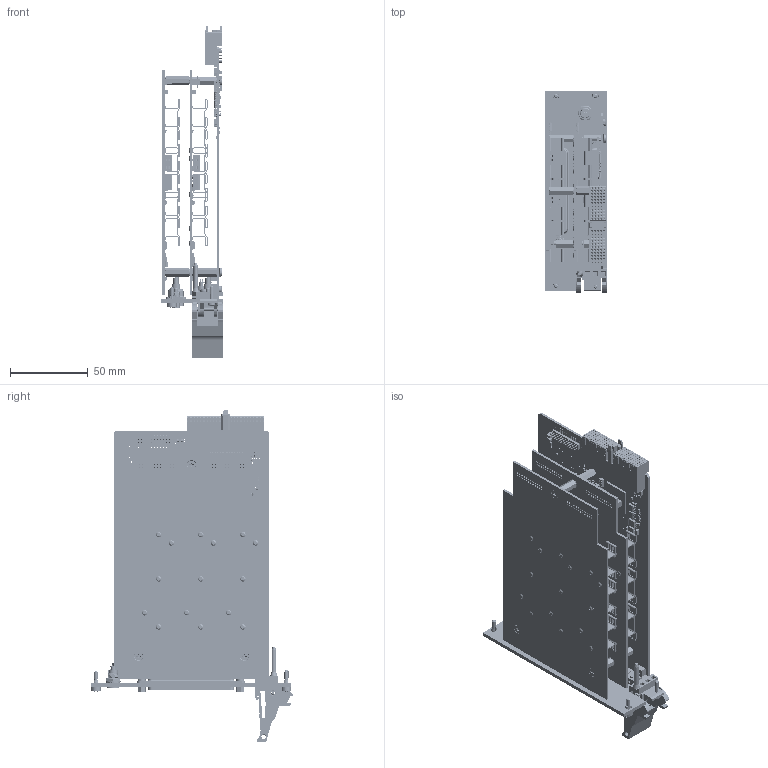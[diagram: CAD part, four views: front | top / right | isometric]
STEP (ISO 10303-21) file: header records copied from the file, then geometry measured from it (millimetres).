
FILE_DESCRIPTION (( 'STEP AP214' ), '1' );
FILE_NAME ('40-184A-001-HI PXI Solid-State Switch Module 6xSPST 25 A 100 V.STEP', '2025-07-24T13:17:37', ( '' ), ( '' ), 'SwSTEP 2.0', 'SolidWorks 2023', '' );
FILE_SCHEMA (( 'AUTOMOTIVE_DESIGN' ));
Length unit declared in the file: millimetre
Products named in the file (99): C-CP-239  Power Line Filter; C-FX-042 Screw M2.5x6 CSK Pozi_M 2.5x06 - C-FX-042; C-PC-1430 Interlock Connector Breakout Board; C-IC-598 64Mbit Flash Memory 8-Pin SOIC; C-IC-124 16-Bit Constant Current Sink Driver; C-IC-310 SOT353 SD; C-RS-636 RES 10K (0603) 1-16W 1% 100ppm; C-CN-355 Compact pci connector 3_Render; C-MS-803 BEAD 120R 0603 2A 0R05 25%; C-RS-254 Res  0603; C-RS-147 Res 100R 0603 1-16W 1% 100PPM; C-CN-476 D PLUG CONTACT 40A; C-CP-139 CAP 4.7UF 1206 16V X7R 10%; C-SC-157 DIODE SCHOTTKY SIGNAL; C-CN-1071; C-CN-073 WASHER plain; C-SC-140 100V 120A Power Transistor; A-PC-878-J-# 25A 100V Solid State 6 x SPST; A-PC-1253-HI PXI VERSATILE MOTHER BOARD; C-FX-461 Hex Standoff, F-F, M3x16mm, Brass_16mm Hexagonal spacer; C-PC-1253 VERSATILE MOTHER BOARD; Z-FX-2001 FP Fixing - Bush + Screw; C-RS-521 Res 120R (0603) 1-16W 1% 100pp; C-RS-1487 RES 100k 0.1W 25PPM 0603; A-FP-1197-L1 PXI 2x 8-Way D-Type + Interlock Front Panel Assy; C-IC-458 LDO VOLTAGE REGULATOR 1.2V SOT; C-CP-124 CAP 10nF CERAMIC SMT 0402; C-CN-073-SPRING WASHER; C-CN-992-TOPPINS 12 WAY HEADER; C-RS-148 Res 1K 0603 1-16W 1% 100PPM; C-RS-614 Resistor 63K4 (0603) SMT; 40-184A-001-HI PXI Solid-State Switch Module 6xSPST  25 A 100 V; C-FP-1197 PXI 2x 8-Way D-Type + Interlock Front Panel; C-SC-146 Dual Transistor SOT-14; C-FX-165 Handle Body; C-FX-165 CPCI Ejector Handle; C-PC-878 Fault Insertion Daughter PCB; C-SC-137 TVS DIODE ARRAY; C-CN-992 12 WAY HEADER; C-IC-185 Bus Transceivers Octal 3-STATE Trans IC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
Assembly tree (294 placements, depth 6):
  40-184A-001-HI PXI Solid-State Switch Module 6xSPST  25 A 100 V
    A-PC-1253-HI PXI VERSATILE MOTHER BOARD
      A-PC-1253-HI-# PXI VERSATILE MOTHER BOARD
        C-PC-1253 VERSATILE MOTHER BOARD
        C-RS-756 RES 0R 0603  200PPM  x17
        C-IC-489 F-RAM Semiconductor Serial-I2C FRAM Memory 512kbit 2-3.6 V 8-Pin SOIC
        C-CP-034  x20
        C-SC-137 TVS DIODE ARRAY
        C-IC-158 Buffer 3-State SOT-23 5-Pin
        C-IC-548 1-Bit Flip-Flop 8-Pin SM8
        C-IC-310 SOT353 SD
        C-RS-152 Res 10K 0603 1-16W 1% 300PPM  x4
        C-RS-1487 RES 100k 0.1W 25PPM 0603
        C-RS-147 Res 100R 0603 1-16W 1% 100PPM  x2
        C-CN-1609 1x4-Way PICBLADE ST M Header
        C-CP-033 Capacitor 10nF SMT 0603
        C-IC-603 Analogue IC
        C-IC-577 8 Pins DUAL VOLTAGE SUPERVISOR 3.3V 2
        C-RS-636 RES 10K (0603) 1-16W 1% 100ppm  x2
        C-RS-614 Resistor 63K4 (0603) SMT
        C-SC-055 Zener Diode
        C-SC-157 DIODE SCHOTTKY SIGNAL  x3
        C-CP-124 CAP 10nF CERAMIC SMT 0402  x30
        C-CP-099 CAP 0.1uF 16V 0402 SMT  x12
        C-RS-605 Res 22K (0603) SMT  x4
        C-RS-1207 RES 11K 0603 0.063W 0.1% 25PPM  x4
        C-SC-146 Dual Transistor SOT-14  x2
        C-MS-803 BEAD 120R 0603 2A 0R05 25%  x2
        C-CN-1071
          C-CN-107-BODY
          C-CN-107-PIN  x8
        C-CP-141 CAP 10UF 1206 35V X5R 10%  x7
        C-CP-239  Power Line Filter  x2
        C-CP-139 CAP 4.7UF 1206 16V X7R 10%  x2
        C-IC-185 Bus Transceivers Octal 3-STATE Trans IC  x2
        C-CN-739 Header 2 X 12 WAY MALE PCB SMT
        C-IC-425 SOICN 8PIN SD
        C-IC-598 64Mbit Flash Memory 8-Pin SOIC
        C-CP-175 CAP 22uF 1206 25V X5R 10%  x2
        C-IC-369 FPGA 17000 Cells 65nm Technology 1.2V 256-Pin FTBGA
        C-RS-521 Res 120R (0603) 1-16W 1% 100pp
        C-RS-148 Res 1K 0603 1-16W 1% 100PPM  x2
        C-RS-659 RES NW 4K7 4RES 8PINS SMT1206  x4
        C-IC-546 24 BIT BUS SWITCH 56PIN TVSOP  x2
        C-CN-355 Compact pci connector 3_Render
        C-CP-134 CAP 1uF CERAMIC SMT 0805  x2
        C-IC-385 SOICN 8PIN SD_No Text
        C-IC-458 LDO VOLTAGE REGULATOR 1.2V SOT
    A-PC-878-J 25A 100V Solid State 6 x SPST  x2
      A-PC-878-J-# 25A 100V Solid State 6 x SPST
        C-PC-878 Fault Insertion Daughter PCB
        C-MS-324 HEAT SINK FOR D-PAK 29.3C  x18
        C-IC-364 IC Gate 1CH SOT23-5  x3
        C-IC-340 DUAL CHANNEL ISOLATOR  x3
        C-IC-124 16-Bit Constant Current Sink Driver  x2
        C-RS-254 Res  0603  x6
        C-RS-760 RES 1K5 0603 200PPM  x2
        C-RS-148 Res 1K 0603 1-16W 1% 100PPM  x6
        C-CP-034  x11
        C-MS-853 IND 47nH 0603 0.4A 0R6 5%  x6
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Bounding box: 40 x 129.68 x 213.7 mm (x, y, z)
Volume: 124893.2 mm3; surface area: 196854.7 mm2
Topology: 444 solids, 478 shells, 27963 faces, 71824 edges, 46082 vertices
Faces by surface type: plane 18006, cylinder 8155, torus 908, cone 696, bspline 168, sphere 30
Entity records: 516467 total; most frequent: CARTESIAN_POINT 77656, DIRECTION 67324, ORIENTED_EDGE 64384, EDGE_CURVE 32196, AXIS2_PLACEMENT_3D 22519, VECTOR 22286, LINE 22286, VERTEX_POINT 20394
